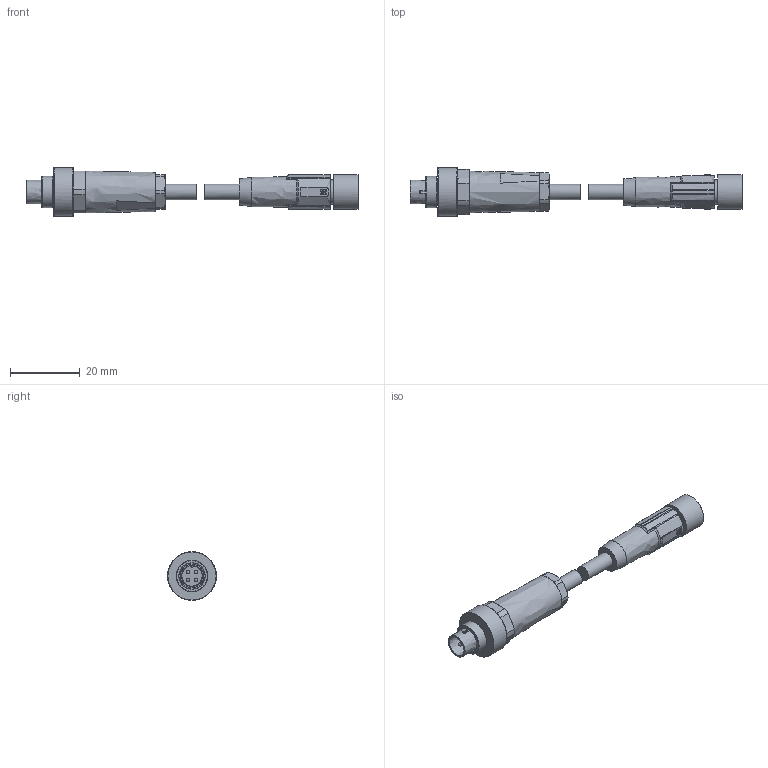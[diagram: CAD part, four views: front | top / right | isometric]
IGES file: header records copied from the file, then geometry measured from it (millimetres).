
Start section: C
Global section: file name: ESG 32A_KSG62AH.igs; native system: By Siemens PLM Incorporated; preprocessor: XPlus GENERIC/IGES 19.0.9; author: Author; organization: Title; date: 20191024.151532; units: millimetre
Bounding box: 95.3 x 14 x 14 mm (x, y, z)
Surface area: 4164.3 mm2 (no closed solid volume)
Topology: 0 solids, 0 shells, 247 faces, 2385 edges, 2385 vertices
Faces by surface type: bspline 247
